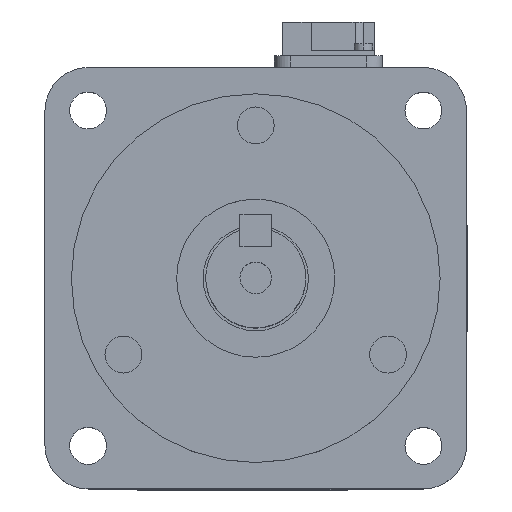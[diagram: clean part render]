
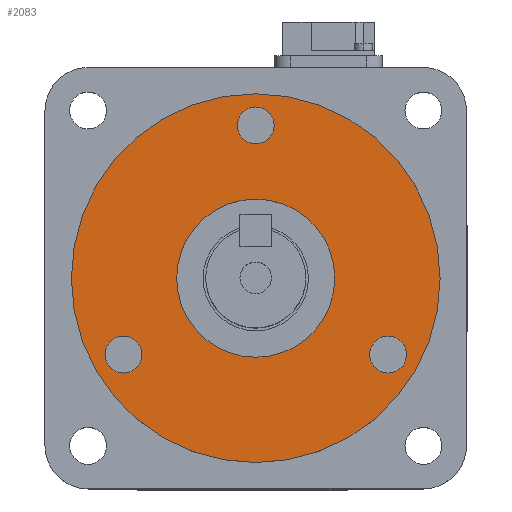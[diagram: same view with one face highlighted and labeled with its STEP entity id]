
A CAD part, top view. The second image highlights one B-rep face of the part: STEP entity #2083.
In plain terms, the highlighted planar face has unit normal (0, 0, 1).
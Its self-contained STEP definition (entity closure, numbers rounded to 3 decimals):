
#289 = VERTEX_POINT ( 'NONE', #5621 ) ;
#291 = EDGE_CURVE ( 'NONE', #289, #292, #5620, .T. ) ;
#292 = VERTEX_POINT ( 'NONE', #5615 ) ;
#305 = VERTEX_POINT ( 'NONE', #5651 ) ;
#307 = EDGE_CURVE ( 'NONE', #305, #308, #5650, .T. ) ;
#308 = VERTEX_POINT ( 'NONE', #5645 ) ;
#363 = EDGE_CURVE ( 'NONE', #364, #365, #5726, .T. ) ;
#364 = VERTEX_POINT ( 'NONE', #5722 ) ;
#365 = VERTEX_POINT ( 'NONE', #5788 ) ;
#431 = EDGE_CURVE ( 'NONE', #432, #433, #5911, .T. ) ;
#432 = VERTEX_POINT ( 'NONE', #5906 ) ;
#433 = VERTEX_POINT ( 'NONE', #5905 ) ;
#740 = VERTEX_POINT ( 'NONE', #6501 ) ;
#742 = EDGE_CURVE ( 'NONE', #740, #743, #6500, .T. ) ;
#743 = VERTEX_POINT ( 'NONE', #6495 ) ;
#2083 = ADVANCED_FACE ( 'NONE', ( #8592, #8591, #8590, #8589, #8588 ), #8652, .T. ) ;
#2084 = EDGE_LOOP ( 'NONE', ( #2085, #2087 ) ) ;
#2085 = ORIENTED_EDGE ( 'NONE', *, *, #2086, .F. ) ;
#2086 = EDGE_CURVE ( 'NONE', #743, #740, #8647, .T. ) ;
#2087 = ORIENTED_EDGE ( 'NONE', *, *, #742, .F. ) ;
#2088 = EDGE_LOOP ( 'NONE', ( #2089, #2091 ) ) ;
#2089 = ORIENTED_EDGE ( 'NONE', *, *, #2090, .F. ) ;
#2090 = EDGE_CURVE ( 'NONE', #308, #305, #8642, .T. ) ;
#2091 = ORIENTED_EDGE ( 'NONE', *, *, #307, .F. ) ;
#2092 = EDGE_LOOP ( 'NONE', ( #2142, #2144 ) ) ;
#2142 = ORIENTED_EDGE ( 'NONE', *, *, #2143, .F. ) ;
#2143 = EDGE_CURVE ( 'NONE', #292, #289, #8696, .T. ) ;
#2144 = ORIENTED_EDGE ( 'NONE', *, *, #291, .F. ) ;
#2145 = EDGE_LOOP ( 'NONE', ( #2146, #2148 ) ) ;
#2146 = ORIENTED_EDGE ( 'NONE', *, *, #2147, .T. ) ;
#2147 = EDGE_CURVE ( 'NONE', #365, #364, #8690, .T. ) ;
#2148 = ORIENTED_EDGE ( 'NONE', *, *, #363, .T. ) ;
#2149 = EDGE_LOOP ( 'NONE', ( #2150, #2151 ) ) ;
#2150 = ORIENTED_EDGE ( 'NONE', *, *, #431, .F. ) ;
#2151 = ORIENTED_EDGE ( 'NONE', *, *, #2152, .F. ) ;
#2152 = EDGE_CURVE ( 'NONE', #433, #432, #8748, .T. ) ;
#5615 = CARTESIAN_POINT ( 'NONE',  ( 3.5, 29., 3. ) ) ;
#5616 = DIRECTION ( 'NONE',  ( 1., 0., 0. ) ) ;
#5617 = DIRECTION ( 'NONE',  ( 0., 0., 1. ) ) ;
#5618 = CARTESIAN_POINT ( 'NONE',  ( 0., 29., 3. ) ) ;
#5619 = AXIS2_PLACEMENT_3D ( 'NONE', #5618, #5617, #5616 ) ;
#5620 = CIRCLE ( 'NONE', #5619, 3.5 ) ;
#5621 = CARTESIAN_POINT ( 'NONE',  ( -3.5, 29., 3. ) ) ;
#5645 = CARTESIAN_POINT ( 'NONE',  ( -21.615, -14.5, 3. ) ) ;
#5646 = DIRECTION ( 'NONE',  ( -0.5, 0.866, 0. ) ) ;
#5647 = DIRECTION ( 'NONE',  ( 0., 0., 1. ) ) ;
#5648 = CARTESIAN_POINT ( 'NONE',  ( -25.115, -14.5, 3. ) ) ;
#5649 = AXIS2_PLACEMENT_3D ( 'NONE', #5648, #5647, #5646 ) ;
#5650 = CIRCLE ( 'NONE', #5649, 3.5 ) ;
#5651 = CARTESIAN_POINT ( 'NONE',  ( -28.615, -14.5, 3. ) ) ;
#5722 = CARTESIAN_POINT ( 'NONE',  ( 15., 0., 3. ) ) ;
#5723 = DIRECTION ( 'NONE',  ( -1., 0., 0. ) ) ;
#5724 = DIRECTION ( 'NONE',  ( 0., 0., -1. ) ) ;
#5725 = AXIS2_PLACEMENT_3D ( 'NONE', #5733, #5724, #5723 ) ;
#5726 = CIRCLE ( 'NONE', #5725, 15. ) ;
#5733 = CARTESIAN_POINT ( 'NONE',  ( 0., 0., 3. ) ) ;
#5788 = CARTESIAN_POINT ( 'NONE',  ( -15., 0., 3. ) ) ;
#5905 = CARTESIAN_POINT ( 'NONE',  ( 35., 0., 3. ) ) ;
#5906 = CARTESIAN_POINT ( 'NONE',  ( -35., 0., 3. ) ) ;
#5907 = DIRECTION ( 'NONE',  ( -1., 0., 0. ) ) ;
#5908 = DIRECTION ( 'NONE',  ( 0., 0., -1. ) ) ;
#5909 = CARTESIAN_POINT ( 'NONE',  ( 0., 0., 3. ) ) ;
#5910 = AXIS2_PLACEMENT_3D ( 'NONE', #5909, #5908, #5907 ) ;
#5911 = CIRCLE ( 'NONE', #5910, 35. ) ;
#6495 = CARTESIAN_POINT ( 'NONE',  ( 28.615, -14.5, 3. ) ) ;
#6496 = DIRECTION ( 'NONE',  ( -0.5, -0.866, 0. ) ) ;
#6497 = DIRECTION ( 'NONE',  ( 0., 0., 1. ) ) ;
#6498 = CARTESIAN_POINT ( 'NONE',  ( 25.115, -14.5, 3. ) ) ;
#6499 = AXIS2_PLACEMENT_3D ( 'NONE', #6498, #6497, #6496 ) ;
#6500 = CIRCLE ( 'NONE', #6499, 3.5 ) ;
#6501 = CARTESIAN_POINT ( 'NONE',  ( 21.615, -14.5, 3. ) ) ;
#7924 = DIRECTION ( 'NONE',  ( -1., 0., 0. ) ) ;
#8588 = FACE_OUTER_BOUND ( 'NONE', #2149, .T. ) ;
#8589 = FACE_BOUND ( 'NONE', #2145, .T. ) ;
#8590 = FACE_BOUND ( 'NONE', #2092, .T. ) ;
#8591 = FACE_BOUND ( 'NONE', #2088, .T. ) ;
#8592 = FACE_BOUND ( 'NONE', #2084, .T. ) ;
#8638 = DIRECTION ( 'NONE',  ( -0.5, 0.866, 0. ) ) ;
#8639 = DIRECTION ( 'NONE',  ( 0., 0., 1. ) ) ;
#8640 = CARTESIAN_POINT ( 'NONE',  ( -25.115, -14.5, 3. ) ) ;
#8641 = AXIS2_PLACEMENT_3D ( 'NONE', #8640, #8639, #8638 ) ;
#8642 = CIRCLE ( 'NONE', #8641, 3.5 ) ;
#8643 = DIRECTION ( 'NONE',  ( -0.5, -0.866, 0. ) ) ;
#8644 = DIRECTION ( 'NONE',  ( 0., 0., 1. ) ) ;
#8645 = CARTESIAN_POINT ( 'NONE',  ( 25.115, -14.5, 3. ) ) ;
#8646 = AXIS2_PLACEMENT_3D ( 'NONE', #8645, #8644, #8643 ) ;
#8647 = CIRCLE ( 'NONE', #8646, 3.5 ) ;
#8648 = DIRECTION ( 'NONE',  ( 1., 0., 0. ) ) ;
#8649 = DIRECTION ( 'NONE',  ( 0., 0., 1. ) ) ;
#8650 = CARTESIAN_POINT ( 'NONE',  ( 0., 35., 3. ) ) ;
#8651 = AXIS2_PLACEMENT_3D ( 'NONE', #8650, #8649, #8648 ) ;
#8652 = PLANE ( 'NONE',  #8651 ) ;
#8687 = DIRECTION ( 'NONE',  ( 0., 0., -1. ) ) ;
#8688 = CARTESIAN_POINT ( 'NONE',  ( 0., 0., 3. ) ) ;
#8689 = AXIS2_PLACEMENT_3D ( 'NONE', #8688, #8687, #7924 ) ;
#8690 = CIRCLE ( 'NONE', #8689, 15. ) ;
#8692 = DIRECTION ( 'NONE',  ( 1., 0., 0. ) ) ;
#8693 = DIRECTION ( 'NONE',  ( 0., 0., 1. ) ) ;
#8694 = CARTESIAN_POINT ( 'NONE',  ( 0., 29., 3. ) ) ;
#8695 = AXIS2_PLACEMENT_3D ( 'NONE', #8694, #8693, #8692 ) ;
#8696 = CIRCLE ( 'NONE', #8695, 3.5 ) ;
#8744 = DIRECTION ( 'NONE',  ( -1., 0., 0. ) ) ;
#8745 = DIRECTION ( 'NONE',  ( 0., 0., -1. ) ) ;
#8746 = CARTESIAN_POINT ( 'NONE',  ( 0., 0., 3. ) ) ;
#8747 = AXIS2_PLACEMENT_3D ( 'NONE', #8746, #8745, #8744 ) ;
#8748 = CIRCLE ( 'NONE', #8747, 35. ) ;
